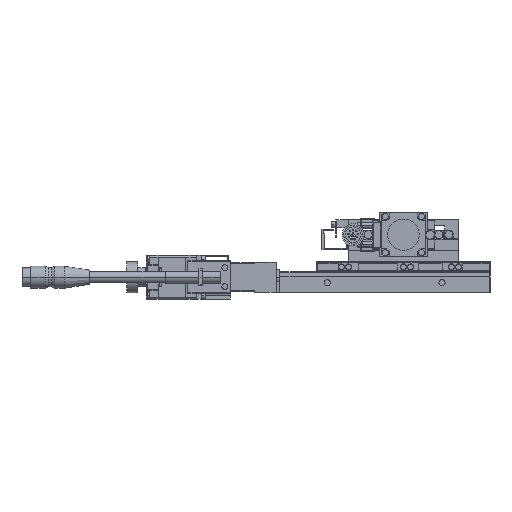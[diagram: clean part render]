
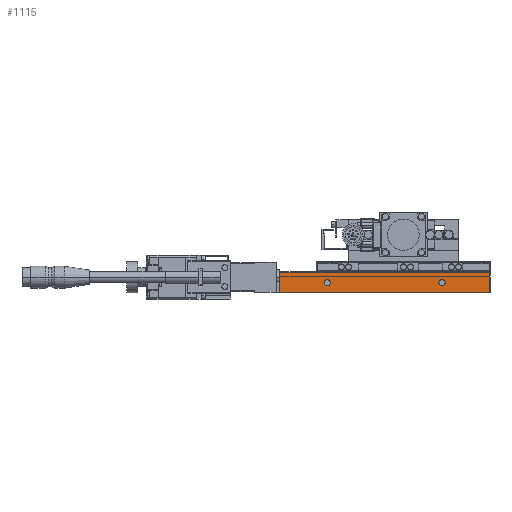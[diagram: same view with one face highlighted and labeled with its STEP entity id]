
A CAD part, front view. The second image highlights one B-rep face of the part: STEP entity #1115.
In plain terms, the highlighted planar face has unit normal (0, -1, 0).
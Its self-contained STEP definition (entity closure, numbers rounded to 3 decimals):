
#1115=ADVANCED_FACE('',(#3179,#3180,#3181),#3182,.F.);
#3179=FACE_BOUND('',#6469,.T.);
#3180=FACE_OUTER_BOUND('',#6470,.T.);
#3181=FACE_BOUND('',#6471,.T.);
#3182=PLANE('',#6472);
#6469=EDGE_LOOP('',(#12450,#12451));
#6470=EDGE_LOOP('',(#12452,#12453,#12454,#12455));
#6471=EDGE_LOOP('',(#12456,#12457));
#6472=AXIS2_PLACEMENT_3D('',#12458,#12459,#12460);
#12450=ORIENTED_EDGE('',*,*,#22104,.F.);
#12451=ORIENTED_EDGE('',*,*,#22127,.F.);
#12452=ORIENTED_EDGE('',*,*,#22128,.T.);
#12453=ORIENTED_EDGE('',*,*,#22129,.F.);
#12454=ORIENTED_EDGE('',*,*,#22130,.F.);
#12455=ORIENTED_EDGE('',*,*,#22131,.T.);
#12456=ORIENTED_EDGE('',*,*,#22100,.F.);
#12457=ORIENTED_EDGE('',*,*,#22132,.F.);
#12458=CARTESIAN_POINT('',(54.5,-51.8,13.5));
#12459=DIRECTION('',(0.,1.0,0.));
#12460=DIRECTION('',(0.,0.,-1.0));
#22100=EDGE_CURVE('',#26597,#26593,#26599,.F.);
#22104=EDGE_CURVE('',#26605,#26601,#26607,.F.);
#22127=EDGE_CURVE('',#26601,#26605,#26648,.F.);
#22128=EDGE_CURVE('',#26649,#26650,#26651,.T.);
#22129=EDGE_CURVE('',#26652,#26650,#26653,.T.);
#22130=EDGE_CURVE('',#26654,#26652,#26655,.T.);
#22131=EDGE_CURVE('',#26654,#26649,#26656,.T.);
#22132=EDGE_CURVE('',#26593,#26597,#26657,.F.);
#26593=VERTEX_POINT('',#33538);
#26597=VERTEX_POINT('',#33543);
#26599=CIRCLE('',#33546,1.95);
#26601=VERTEX_POINT('',#33548);
#26605=VERTEX_POINT('',#33553);
#26607=CIRCLE('',#33556,1.95);
#26648=CIRCLE('',#33611,1.95);
#26649=VERTEX_POINT('',#33612);
#26650=VERTEX_POINT('',#33613);
#26651=LINE('',#33614,#33615);
#26652=VERTEX_POINT('',#33616);
#26653=LINE('',#33617,#33618);
#26654=VERTEX_POINT('',#33619);
#26655=LINE('',#33620,#33621);
#26656=LINE('',#33622,#33623);
#26657=CIRCLE('',#33624,1.95);
#33538=CARTESIAN_POINT('',(26.45,-51.8,6.5));
#33543=CARTESIAN_POINT('',(22.55,-51.8,6.5));
#33546=AXIS2_PLACEMENT_3D('',#42030,#42031,#42032);
#33548=CARTESIAN_POINT('',(-46.55,-51.8,6.5));
#33553=CARTESIAN_POINT('',(-50.45,-51.8,6.5));
#33556=AXIS2_PLACEMENT_3D('',#42038,#42039,#42040);
#33611=AXIS2_PLACEMENT_3D('',#42079,#42080,#42081);
#33612=CARTESIAN_POINT('',(-78.5,-51.8,13.5));
#33613=CARTESIAN_POINT('',(-78.5,-51.8,0.5));
#33614=CARTESIAN_POINT('',(-78.5,-51.8,13.5));
#33615=VECTOR('',#42082,1000.0);
#33616=CARTESIAN_POINT('',(54.5,-51.8,0.5));
#33617=CARTESIAN_POINT('',(54.5,-51.8,0.5));
#33618=VECTOR('',#42083,1000.0);
#33619=CARTESIAN_POINT('',(54.5,-51.8,13.5));
#33620=CARTESIAN_POINT('',(54.5,-51.8,13.5));
#33621=VECTOR('',#42084,1000.0);
#33622=CARTESIAN_POINT('',(54.5,-51.8,13.5));
#33623=VECTOR('',#42085,1000.0);
#33624=AXIS2_PLACEMENT_3D('',#42086,#42087,#42088);
#42030=CARTESIAN_POINT('',(24.5,-51.8,6.5));
#42031=DIRECTION('',(0.,1.0,0.));
#42032=DIRECTION('',(-1.0,0.,0.));
#42038=CARTESIAN_POINT('',(-48.5,-51.8,6.5));
#42039=DIRECTION('',(0.,1.0,0.));
#42040=DIRECTION('',(-1.0,0.,0.));
#42079=CARTESIAN_POINT('',(-48.5,-51.8,6.5));
#42080=DIRECTION('',(0.,1.0,0.));
#42081=DIRECTION('',(-1.0,0.,0.));
#42082=DIRECTION('',(0.,0.,-1.0));
#42083=DIRECTION('',(-1.0,0.,0.));
#42084=DIRECTION('',(0.,0.,-1.0));
#42085=DIRECTION('',(-1.0,0.,0.));
#42086=CARTESIAN_POINT('',(24.5,-51.8,6.5));
#42087=DIRECTION('',(0.,1.0,0.));
#42088=DIRECTION('',(-1.0,0.,0.));
